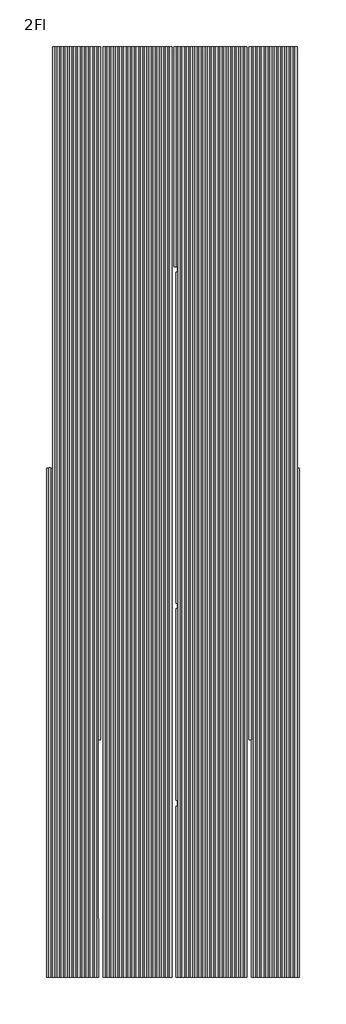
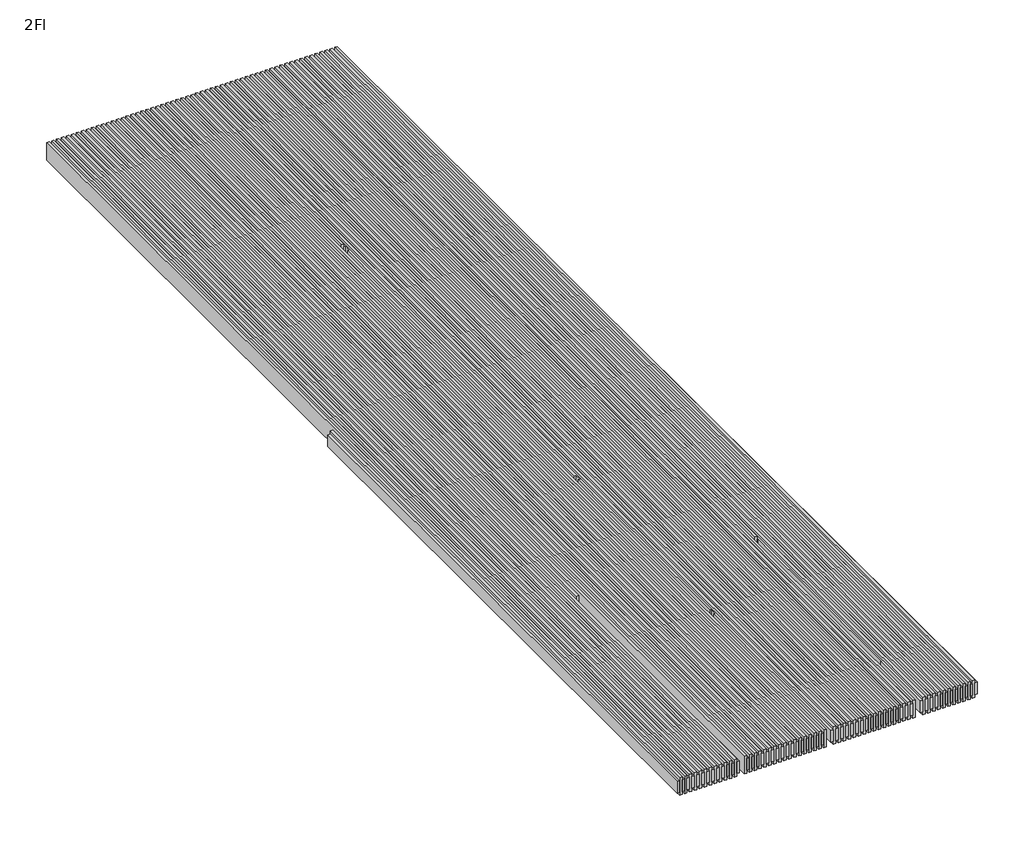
# One storey, incomplete: 60 members, 58 plates.
"""IFC4 building model written with IfcOpenShell, lengths in millimetres."""

from ifc_helpers import new_model, si_unit, origin, place, context, project, spatial, transform, mapped, element, save
from components import louver_20x150_cb5f7806, louver_20x150_8942ec77, louver_20x150_e3eb93e8, louver_20x150_0c83da87, plate_a6df87d5, plate_b335856c, plate_ebc2b1f9, plate_564b02af, plate_63aab1e6, plate_33c2b598

model = new_model("IFC4")

# Units and contexts
model_context = context("Model", 3, world=origin())
ifc_project = project(units=[si_unit("LENGTHUNIT", "METRE", prefix="MILLI")], contexts=[model_context])

# Site, building, storey
site = spatial("IfcSite", under=ifc_project)
building = spatial("IfcBuilding", under=site)
storey = spatial("IfcBuildingStorey", under=building, Name="2Fl", Elevation=5000.0)

# Members
placement = place(None, origin())
louver_20x150_shape = louver_20x150_cb5f7806(model_context)
element("IfcMember", 1, ObjectType="長方形マリオン : louver-20x150", at=placement, inside=storey, context=model_context, shape_type="MappedRepresentation", body=[
    mapped(louver_20x150_shape, transform((14818.0692785, 5350.9421609, 3075.0), x_axis=(1.0, 0.0, 0.0), y_axis=(0.0, 0.0, -1.0), z_axis=(0.0, 1.0, 0.0))),
])
louver_20x150_2_shape = louver_20x150_8942ec77(model_context)
element("IfcMember", 2, ObjectType="長方形マリオン : louver-20x150", at=placement, inside=storey, context=model_context, shape_type="MappedRepresentation", body=[
    mapped(louver_20x150_2_shape, transform((14858.0692785, 9381.1921609, 3075.0), x_axis=(1.0, 0.0, 0.0), y_axis=(0.0, 0.0, -1.0), z_axis=(0.0, 1.0, 0.0))),
])
element("IfcMember", 3, ObjectType="長方形マリオン : louver-20x150", at=placement, inside=storey, context=model_context, shape_type="MappedRepresentation", body=[
    mapped(louver_20x150_2_shape, transform((14898.0692785, 9381.1921609, 3075.0), x_axis=(1.0, 0.0, 0.0), y_axis=(0.0, 0.0, -1.0), z_axis=(0.0, 1.0, 0.0))),
])
element("IfcMember", 4, ObjectType="長方形マリオン : louver-20x150", at=placement, inside=storey, context=model_context, shape_type="MappedRepresentation", body=[
    mapped(louver_20x150_2_shape, transform((14938.0692785, 9381.1921609, 3075.0), x_axis=(1.0, 0.0, 0.0), y_axis=(0.0, 0.0, -1.0), z_axis=(0.0, 1.0, 0.0))),
])
element("IfcMember", 5, ObjectType="長方形マリオン : louver-20x150", at=placement, inside=storey, context=model_context, shape_type="MappedRepresentation", body=[
    mapped(louver_20x150_2_shape, transform((14978.0692785, 9381.1921609, 3075.0), x_axis=(1.0, 0.0, 0.0), y_axis=(0.0, 0.0, -1.0), z_axis=(0.0, 1.0, 0.0))),
])
element("IfcMember", 6, ObjectType="長方形マリオン : louver-20x150", at=placement, inside=storey, context=model_context, shape_type="MappedRepresentation", body=[
    mapped(louver_20x150_2_shape, transform((15018.0692785, 9381.1921609, 3075.0), x_axis=(1.0, 0.0, 0.0), y_axis=(0.0, 0.0, -1.0), z_axis=(0.0, 1.0, 0.0))),
])
element("IfcMember", 7, ObjectType="長方形マリオン : louver-20x150", at=placement, inside=storey, context=model_context, shape_type="MappedRepresentation", body=[
    mapped(louver_20x150_2_shape, transform((15058.0692785, 9381.1921609, 3075.0), x_axis=(1.0, 0.0, 0.0), y_axis=(0.0, 0.0, -1.0), z_axis=(0.0, 1.0, 0.0))),
])
element("IfcMember", 8, ObjectType="長方形マリオン : louver-20x150", at=placement, inside=storey, context=model_context, shape_type="MappedRepresentation", body=[
    mapped(louver_20x150_2_shape, transform((15098.0692785, 9381.1921609, 3075.0), x_axis=(1.0, 0.0, 0.0), y_axis=(0.0, 0.0, -1.0), z_axis=(0.0, 1.0, 0.0))),
])
element("IfcMember", 9, ObjectType="長方形マリオン : louver-20x150", at=placement, inside=storey, context=model_context, shape_type="MappedRepresentation", body=[
    mapped(louver_20x150_2_shape, transform((15138.0692785, 9381.1921609, 3075.0), x_axis=(1.0, 0.0, 0.0), y_axis=(0.0, 0.0, -1.0), z_axis=(0.0, 1.0, 0.0))),
])
element("IfcMember", 10, ObjectType="長方形マリオン : louver-20x150", at=placement, inside=storey, context=model_context, shape_type="MappedRepresentation", body=[
    mapped(louver_20x150_2_shape, transform((15178.0692785, 9381.1921609, 3075.0), x_axis=(1.0, 0.0, 0.0), y_axis=(0.0, 0.0, -1.0), z_axis=(0.0, 1.0, 0.0))),
])
element("IfcMember", 11, ObjectType="長方形マリオン : louver-20x150", at=placement, inside=storey, context=model_context, shape_type="MappedRepresentation", body=[
    mapped(louver_20x150_2_shape, transform((15218.0692785, 9381.1921609, 3075.0), x_axis=(1.0, 0.0, 0.0), y_axis=(0.0, 0.0, -1.0), z_axis=(0.0, 1.0, 0.0))),
])
element("IfcMember", 12, ObjectType="長方形マリオン : louver-20x150", at=placement, inside=storey, context=model_context, shape_type="MappedRepresentation", body=[
    mapped(louver_20x150_2_shape, transform((15258.0692785, 9381.1921609, 3075.0), x_axis=(1.0, 0.0, 0.0), y_axis=(0.0, 0.0, -1.0), z_axis=(0.0, 1.0, 0.0))),
])
element("IfcMember", 13, ObjectType="長方形マリオン : louver-20x150", at=placement, inside=storey, context=model_context, shape_type="MappedRepresentation", body=[
    mapped(louver_20x150_2_shape, transform((15338.0692785, 9381.1921609, 3075.0), x_axis=(1.0, 0.0, 0.0), y_axis=(0.0, 0.0, -1.0), z_axis=(0.0, 1.0, 0.0))),
])
element("IfcMember", 14, ObjectType="長方形マリオン : louver-20x150", at=placement, inside=storey, context=model_context, shape_type="MappedRepresentation", body=[
    mapped(louver_20x150_2_shape, transform((15378.0692785, 9381.1921609, 3075.0), x_axis=(1.0, 0.0, 0.0), y_axis=(0.0, 0.0, -1.0), z_axis=(0.0, 1.0, 0.0))),
])
element("IfcMember", 15, ObjectType="長方形マリオン : louver-20x150", at=placement, inside=storey, context=model_context, shape_type="MappedRepresentation", body=[
    mapped(louver_20x150_2_shape, transform((15418.0692785, 9381.1921609, 3075.0), x_axis=(1.0, 0.0, 0.0), y_axis=(0.0, 0.0, -1.0), z_axis=(0.0, 1.0, 0.0))),
])
element("IfcMember", 16, ObjectType="長方形マリオン : louver-20x150", at=placement, inside=storey, context=model_context, shape_type="MappedRepresentation", body=[
    mapped(louver_20x150_2_shape, transform((15458.0692785, 9381.1921609, 3075.0), x_axis=(1.0, 0.0, 0.0), y_axis=(0.0, 0.0, -1.0), z_axis=(0.0, 1.0, 0.0))),
])
element("IfcMember", 17, ObjectType="長方形マリオン : louver-20x150", at=placement, inside=storey, context=model_context, shape_type="MappedRepresentation", body=[
    mapped(louver_20x150_2_shape, transform((15498.0692785, 9381.1921609, 3075.0), x_axis=(1.0, 0.0, 0.0), y_axis=(0.0, 0.0, -1.0), z_axis=(0.0, 1.0, 0.0))),
])
element("IfcMember", 18, ObjectType="長方形マリオン : louver-20x150", at=placement, inside=storey, context=model_context, shape_type="MappedRepresentation", body=[
    mapped(louver_20x150_2_shape, transform((15538.0692785, 9381.1921609, 3075.0), x_axis=(1.0, 0.0, 0.0), y_axis=(0.0, 0.0, -1.0), z_axis=(0.0, 1.0, 0.0))),
])
element("IfcMember", 19, ObjectType="長方形マリオン : louver-20x150", at=placement, inside=storey, context=model_context, shape_type="MappedRepresentation", body=[
    mapped(louver_20x150_2_shape, transform((15578.0692785, 9381.1921609, 3075.0), x_axis=(1.0, 0.0, 0.0), y_axis=(0.0, 0.0, -1.0), z_axis=(0.0, 1.0, 0.0))),
])
element("IfcMember", 20, ObjectType="長方形マリオン : louver-20x150", at=placement, inside=storey, context=model_context, shape_type="MappedRepresentation", body=[
    mapped(louver_20x150_2_shape, transform((15618.0692785, 9381.1921609, 3075.0), x_axis=(1.0, 0.0, 0.0), y_axis=(0.0, 0.0, -1.0), z_axis=(0.0, 1.0, 0.0))),
])
element("IfcMember", 21, ObjectType="長方形マリオン : louver-20x150", at=placement, inside=storey, context=model_context, shape_type="MappedRepresentation", body=[
    mapped(louver_20x150_2_shape, transform((15658.0692785, 9381.1921609, 3075.0), x_axis=(1.0, 0.0, 0.0), y_axis=(0.0, 0.0, -1.0), z_axis=(0.0, 1.0, 0.0))),
])
element("IfcMember", 22, ObjectType="長方形マリオン : louver-20x150", at=placement, inside=storey, context=model_context, shape_type="MappedRepresentation", body=[
    mapped(louver_20x150_2_shape, transform((15698.0692785, 9381.1921609, 3075.0), x_axis=(1.0, 0.0, 0.0), y_axis=(0.0, 0.0, -1.0), z_axis=(0.0, 1.0, 0.0))),
])
element("IfcMember", 23, ObjectType="長方形マリオン : louver-20x150", at=placement, inside=storey, context=model_context, shape_type="MappedRepresentation", body=[
    mapped(louver_20x150_2_shape, transform((15738.0692785, 9381.1921609, 3075.0), x_axis=(1.0, 0.0, 0.0), y_axis=(0.0, 0.0, -1.0), z_axis=(0.0, 1.0, 0.0))),
])
element("IfcMember", 24, ObjectType="長方形マリオン : louver-20x150", at=placement, inside=storey, context=model_context, shape_type="MappedRepresentation", body=[
    mapped(louver_20x150_2_shape, transform((15778.0692785, 9381.1921609, 3075.0), x_axis=(1.0, 0.0, 0.0), y_axis=(0.0, 0.0, -1.0), z_axis=(0.0, 1.0, 0.0))),
])
element("IfcMember", 25, ObjectType="長方形マリオン : louver-20x150", at=placement, inside=storey, context=model_context, shape_type="MappedRepresentation", body=[
    mapped(louver_20x150_2_shape, transform((15818.0692785, 9381.1921609, 3075.0), x_axis=(1.0, 0.0, 0.0), y_axis=(0.0, 0.0, -1.0), z_axis=(0.0, 1.0, 0.0))),
])
element("IfcMember", 26, ObjectType="長方形マリオン : louver-20x150", at=placement, inside=storey, context=model_context, shape_type="MappedRepresentation", body=[
    mapped(louver_20x150_2_shape, transform((15858.0692785, 9381.1921609, 3075.0), x_axis=(1.0, 0.0, 0.0), y_axis=(0.0, 0.0, -1.0), z_axis=(0.0, 1.0, 0.0))),
])
element("IfcMember", 27, ObjectType="長方形マリオン : louver-20x150", at=placement, inside=storey, context=model_context, shape_type="MappedRepresentation", body=[
    mapped(louver_20x150_2_shape, transform((15898.0692785, 9381.1921609, 3075.0), x_axis=(1.0, 0.0, 0.0), y_axis=(0.0, 0.0, -1.0), z_axis=(0.0, 1.0, 0.0))),
])
element("IfcMember", 28, ObjectType="長方形マリオン : louver-20x150", at=placement, inside=storey, context=model_context, shape_type="MappedRepresentation", body=[
    mapped(louver_20x150_2_shape, transform((15938.0692785, 9381.1921609, 3075.0), x_axis=(1.0, 0.0, 0.0), y_axis=(0.0, 0.0, -1.0), z_axis=(0.0, 1.0, 0.0))),
])
element("IfcMember", 29, ObjectType="長方形マリオン : louver-20x150", at=placement, inside=storey, context=model_context, shape_type="MappedRepresentation", body=[
    mapped(louver_20x150_2_shape, transform((15978.0692785, 9381.1921609, 3075.0), x_axis=(1.0, 0.0, 0.0), y_axis=(0.0, 0.0, -1.0), z_axis=(0.0, 1.0, 0.0))),
])
element("IfcMember", 30, ObjectType="長方形マリオン : louver-20x150", at=placement, inside=storey, context=model_context, shape_type="MappedRepresentation", body=[
    mapped(louver_20x150_2_shape, transform((16058.0692785, 9381.1921609, 3075.0), x_axis=(1.0, 0.0, 0.0), y_axis=(0.0, 0.0, -1.0), z_axis=(0.0, 1.0, 0.0))),
])
element("IfcMember", 31, ObjectType="長方形マリオン : louver-20x150", at=placement, inside=storey, context=model_context, shape_type="MappedRepresentation", body=[
    mapped(louver_20x150_2_shape, transform((16098.0692785, 9381.1921609, 3075.0), x_axis=(1.0, 0.0, 0.0), y_axis=(0.0, 0.0, -1.0), z_axis=(0.0, 1.0, 0.0))),
])
element("IfcMember", 32, ObjectType="長方形マリオン : louver-20x150", at=placement, inside=storey, context=model_context, shape_type="MappedRepresentation", body=[
    mapped(louver_20x150_2_shape, transform((16138.0692785, 9381.1921609, 3075.0), x_axis=(1.0, 0.0, 0.0), y_axis=(0.0, 0.0, -1.0), z_axis=(0.0, 1.0, 0.0))),
])
element("IfcMember", 33, ObjectType="長方形マリオン : louver-20x150", at=placement, inside=storey, context=model_context, shape_type="MappedRepresentation", body=[
    mapped(louver_20x150_2_shape, transform((16178.0692785, 9381.1921609, 3075.0), x_axis=(1.0, 0.0, 0.0), y_axis=(0.0, 0.0, -1.0), z_axis=(0.0, 1.0, 0.0))),
])
element("IfcMember", 34, ObjectType="長方形マリオン : louver-20x150", at=placement, inside=storey, context=model_context, shape_type="MappedRepresentation", body=[
    mapped(louver_20x150_2_shape, transform((16218.0692785, 9381.1921609, 3075.0), x_axis=(1.0, 0.0, 0.0), y_axis=(0.0, 0.0, -1.0), z_axis=(0.0, 1.0, 0.0))),
])
element("IfcMember", 35, ObjectType="長方形マリオン : louver-20x150", at=placement, inside=storey, context=model_context, shape_type="MappedRepresentation", body=[
    mapped(louver_20x150_2_shape, transform((16258.0692785, 9381.1921609, 3075.0), x_axis=(1.0, 0.0, 0.0), y_axis=(0.0, 0.0, -1.0), z_axis=(0.0, 1.0, 0.0))),
])
element("IfcMember", 36, ObjectType="長方形マリオン : louver-20x150", at=placement, inside=storey, context=model_context, shape_type="MappedRepresentation", body=[
    mapped(louver_20x150_2_shape, transform((16298.0692785, 9381.1921609, 3075.0), x_axis=(1.0, 0.0, 0.0), y_axis=(0.0, 0.0, -1.0), z_axis=(0.0, 1.0, 0.0))),
])
element("IfcMember", 37, ObjectType="長方形マリオン : louver-20x150", at=placement, inside=storey, context=model_context, shape_type="MappedRepresentation", body=[
    mapped(louver_20x150_2_shape, transform((16338.0692785, 9381.1921609, 3075.0), x_axis=(1.0, 0.0, 0.0), y_axis=(0.0, 0.0, -1.0), z_axis=(0.0, 1.0, 0.0))),
])
element("IfcMember", 38, ObjectType="長方形マリオン : louver-20x150", at=placement, inside=storey, context=model_context, shape_type="MappedRepresentation", body=[
    mapped(louver_20x150_2_shape, transform((16378.0692785, 9381.1921609, 3075.0), x_axis=(1.0, 0.0, 0.0), y_axis=(0.0, 0.0, -1.0), z_axis=(0.0, 1.0, 0.0))),
])
element("IfcMember", 39, ObjectType="長方形マリオン : louver-20x150", at=placement, inside=storey, context=model_context, shape_type="MappedRepresentation", body=[
    mapped(louver_20x150_2_shape, transform((16418.0692785, 9381.1921609, 3075.0), x_axis=(1.0, 0.0, 0.0), y_axis=(0.0, 0.0, -1.0), z_axis=(0.0, 1.0, 0.0))),
])
element("IfcMember", 40, ObjectType="長方形マリオン : louver-20x150", at=placement, inside=storey, context=model_context, shape_type="MappedRepresentation", body=[
    mapped(louver_20x150_2_shape, transform((16458.0692785, 9381.1921609, 3075.0), x_axis=(1.0, 0.0, 0.0), y_axis=(0.0, 0.0, -1.0), z_axis=(0.0, 1.0, 0.0))),
])
element("IfcMember", 41, ObjectType="長方形マリオン : louver-20x150", at=placement, inside=storey, context=model_context, shape_type="MappedRepresentation", body=[
    mapped(louver_20x150_2_shape, transform((16498.0692785, 9381.1921609, 3075.0), x_axis=(1.0, 0.0, 0.0), y_axis=(0.0, 0.0, -1.0), z_axis=(0.0, 1.0, 0.0))),
])
element("IfcMember", 42, ObjectType="長方形マリオン : louver-20x150", at=placement, inside=storey, context=model_context, shape_type="MappedRepresentation", body=[
    mapped(louver_20x150_2_shape, transform((16538.0692785, 9381.1921609, 3075.0), x_axis=(1.0, 0.0, 0.0), y_axis=(0.0, 0.0, -1.0), z_axis=(0.0, 1.0, 0.0))),
])
element("IfcMember", 43, ObjectType="長方形マリオン : louver-20x150", at=placement, inside=storey, context=model_context, shape_type="MappedRepresentation", body=[
    mapped(louver_20x150_2_shape, transform((16578.0692785, 9381.1921609, 3075.0), x_axis=(1.0, 0.0, 0.0), y_axis=(0.0, 0.0, -1.0), z_axis=(0.0, 1.0, 0.0))),
])
element("IfcMember", 44, ObjectType="長方形マリオン : louver-20x150", at=placement, inside=storey, context=model_context, shape_type="MappedRepresentation", body=[
    mapped(louver_20x150_2_shape, transform((16618.0692785, 9381.1921609, 3075.0), x_axis=(1.0, 0.0, 0.0), y_axis=(0.0, 0.0, -1.0), z_axis=(0.0, 1.0, 0.0))),
])
element("IfcMember", 45, ObjectType="長方形マリオン : louver-20x150", at=placement, inside=storey, context=model_context, shape_type="MappedRepresentation", body=[
    mapped(louver_20x150_2_shape, transform((16658.0692785, 9381.1921609, 3075.0), x_axis=(1.0, 0.0, 0.0), y_axis=(0.0, 0.0, -1.0), z_axis=(0.0, 1.0, 0.0))),
])
element("IfcMember", 46, ObjectType="長方形マリオン : louver-20x150", at=placement, inside=storey, context=model_context, shape_type="MappedRepresentation", body=[
    mapped(louver_20x150_2_shape, transform((16698.0692785, 9381.1921609, 3075.0), x_axis=(1.0, 0.0, 0.0), y_axis=(0.0, 0.0, -1.0), z_axis=(0.0, 1.0, 0.0))),
])
element("IfcMember", 47, ObjectType="長方形マリオン : louver-20x150", at=placement, inside=storey, context=model_context, shape_type="MappedRepresentation", body=[
    mapped(louver_20x150_2_shape, transform((16778.0692785, 9381.1921609, 3075.0), x_axis=(1.0, 0.0, 0.0), y_axis=(0.0, 0.0, -1.0), z_axis=(0.0, 1.0, 0.0))),
])
element("IfcMember", 48, ObjectType="長方形マリオン : louver-20x150", at=placement, inside=storey, context=model_context, shape_type="MappedRepresentation", body=[
    mapped(louver_20x150_2_shape, transform((16818.0692785, 9381.1921609, 3075.0), x_axis=(1.0, 0.0, 0.0), y_axis=(0.0, 0.0, -1.0), z_axis=(0.0, 1.0, 0.0))),
])
element("IfcMember", 49, ObjectType="長方形マリオン : louver-20x150", at=placement, inside=storey, context=model_context, shape_type="MappedRepresentation", body=[
    mapped(louver_20x150_2_shape, transform((16858.0692785, 9381.1921609, 3075.0), x_axis=(1.0, 0.0, 0.0), y_axis=(0.0, 0.0, -1.0), z_axis=(0.0, 1.0, 0.0))),
])
element("IfcMember", 50, ObjectType="長方形マリオン : louver-20x150", at=placement, inside=storey, context=model_context, shape_type="MappedRepresentation", body=[
    mapped(louver_20x150_2_shape, transform((16898.0692785, 9381.1921609, 3075.0), x_axis=(1.0, 0.0, 0.0), y_axis=(0.0, 0.0, -1.0), z_axis=(0.0, 1.0, 0.0))),
])
element("IfcMember", 51, ObjectType="長方形マリオン : louver-20x150", at=placement, inside=storey, context=model_context, shape_type="MappedRepresentation", body=[
    mapped(louver_20x150_2_shape, transform((16938.0692785, 9381.1921609, 3075.0), x_axis=(1.0, 0.0, 0.0), y_axis=(0.0, 0.0, -1.0), z_axis=(0.0, 1.0, 0.0))),
])
element("IfcMember", 52, ObjectType="長方形マリオン : louver-20x150", at=placement, inside=storey, context=model_context, shape_type="MappedRepresentation", body=[
    mapped(louver_20x150_2_shape, transform((16978.0692785, 9381.1921609, 3075.0), x_axis=(1.0, 0.0, 0.0), y_axis=(0.0, 0.0, -1.0), z_axis=(0.0, 1.0, 0.0))),
])
element("IfcMember", 53, ObjectType="長方形マリオン : louver-20x150", at=placement, inside=storey, context=model_context, shape_type="MappedRepresentation", body=[
    mapped(louver_20x150_2_shape, transform((17018.0692785, 9381.1921609, 3075.0), x_axis=(1.0, 0.0, 0.0), y_axis=(0.0, 0.0, -1.0), z_axis=(0.0, 1.0, 0.0))),
])
element("IfcMember", 54, ObjectType="長方形マリオン : louver-20x150", at=placement, inside=storey, context=model_context, shape_type="MappedRepresentation", body=[
    mapped(louver_20x150_2_shape, transform((17058.0692785, 9381.1921609, 3075.0), x_axis=(1.0, 0.0, 0.0), y_axis=(0.0, 0.0, -1.0), z_axis=(0.0, 1.0, 0.0))),
])
element("IfcMember", 55, ObjectType="長方形マリオン : louver-20x150", at=placement, inside=storey, context=model_context, shape_type="MappedRepresentation", body=[
    mapped(louver_20x150_2_shape, transform((17098.0692785, 9381.1921609, 3075.0), x_axis=(1.0, 0.0, 0.0), y_axis=(0.0, 0.0, -1.0), z_axis=(0.0, 1.0, 0.0))),
])
element("IfcMember", 56, ObjectType="長方形マリオン : louver-20x150", at=placement, inside=storey, context=model_context, shape_type="MappedRepresentation", body=[
    mapped(louver_20x150_2_shape, transform((17138.0692785, 9381.1921609, 3075.0), x_axis=(1.0, 0.0, 0.0), y_axis=(0.0, 0.0, -1.0), z_axis=(0.0, 1.0, 0.0))),
])
element("IfcMember", 57, ObjectType="長方形マリオン : louver-20x150", at=placement, inside=storey, context=model_context, shape_type="MappedRepresentation", body=[
    mapped(louver_20x150_2_shape, transform((17178.0692785, 9381.1921609, 3075.0), x_axis=(1.0, 0.0, 0.0), y_axis=(0.0, 0.0, -1.0), z_axis=(0.0, 1.0, 0.0))),
])
louver_20x150_3_shape = louver_20x150_e3eb93e8(model_context)
element("IfcMember", 58, ObjectType="長方形マリオン : louver-20x150", at=placement, inside=storey, context=model_context, shape_type="MappedRepresentation", body=[
    mapped(louver_20x150_3_shape, transform((15298.0692785, 9381.1921609, 3075.0), x_axis=(1.0, 0.0, 0.0), y_axis=(0.0, 0.0, -1.0), z_axis=(0.0, 1.0, 0.0))),
])
element("IfcMember", 59, ObjectType="長方形マリオン : louver-20x150", at=placement, inside=storey, context=model_context, shape_type="MappedRepresentation", body=[
    mapped(louver_20x150_3_shape, transform((16738.0692785, 9381.1921609, 3075.0), x_axis=(1.0, 0.0, 0.0), y_axis=(0.0, 0.0, -1.0), z_axis=(0.0, 1.0, 0.0))),
])
louver_20x150_4_shape = louver_20x150_0c83da87(model_context)
element("IfcMember", 60, ObjectType="長方形マリオン : louver-20x150", at=placement, inside=storey, context=model_context, shape_type="MappedRepresentation", body=[
    mapped(louver_20x150_4_shape, transform((16018.0692785, 9381.1921609, 3075.0), x_axis=(1.0, 0.0, 0.0), y_axis=(0.0, 0.0, -1.0), z_axis=(0.0, 1.0, 0.0))),
])

# Plates
plate_shape = plate_a6df87d5(model_context)
element("IfcPlate", 61, ObjectType="システム パネルなし : なし", at=placement, inside=storey, context=model_context, shape_type="MappedRepresentation", body=[
    mapped(plate_shape, transform((14798.0692784, 479.1921609, 3075.0), x_axis=(1.0, 0.0, 0.0), y_axis=(0.0, 0.0, -1.0), z_axis=(0.0, 1.0, 0.0))),
])
plate_2_shape = plate_b335856c(model_context)
element("IfcPlate", 62, ObjectType="システム パネルなし : なし", at=placement, inside=storey, context=model_context, shape_type="MappedRepresentation", body=[
    mapped(plate_2_shape, transform((14838.0692785, 479.1921609, 3075.0), x_axis=(1.0, 0.0, 0.0), y_axis=(0.0, 0.0, -1.0), z_axis=(0.0, 1.0, 0.0))),
])
element("IfcPlate", 63, ObjectType="システム パネルなし : なし", at=placement, inside=storey, context=model_context, shape_type="MappedRepresentation", body=[
    mapped(plate_2_shape, transform((17198.0692785, 479.1921609, 3075.0), x_axis=(1.0, 0.0, 0.0), y_axis=(0.0, 0.0, -1.0), z_axis=(0.0, 1.0, 0.0))),
])
plate_3_shape = plate_ebc2b1f9(model_context)
element("IfcPlate", 64, ObjectType="システム パネルなし : なし", at=placement, inside=storey, context=model_context, shape_type="MappedRepresentation", body=[
    mapped(plate_3_shape, transform((14878.0692785, 479.1921609, 3075.0), x_axis=(1.0, 0.0, 0.0), y_axis=(0.0, 0.0, -1.0), z_axis=(0.0, 1.0, 0.0))),
])
element("IfcPlate", 65, ObjectType="システム パネルなし : なし", at=placement, inside=storey, context=model_context, shape_type="MappedRepresentation", body=[
    mapped(plate_3_shape, transform((14918.0692785, 479.1921609, 3075.0), x_axis=(1.0, 0.0, 0.0), y_axis=(0.0, 0.0, -1.0), z_axis=(0.0, 1.0, 0.0))),
])
element("IfcPlate", 66, ObjectType="システム パネルなし : なし", at=placement, inside=storey, context=model_context, shape_type="MappedRepresentation", body=[
    mapped(plate_3_shape, transform((14958.0692785, 479.1921609, 3075.0), x_axis=(1.0, 0.0, 0.0), y_axis=(0.0, 0.0, -1.0), z_axis=(0.0, 1.0, 0.0))),
])
element("IfcPlate", 67, ObjectType="システム パネルなし : なし", at=placement, inside=storey, context=model_context, shape_type="MappedRepresentation", body=[
    mapped(plate_3_shape, transform((14998.0692785, 479.1921609, 3075.0), x_axis=(1.0, 0.0, 0.0), y_axis=(0.0, 0.0, -1.0), z_axis=(0.0, 1.0, 0.0))),
])
element("IfcPlate", 68, ObjectType="システム パネルなし : なし", at=placement, inside=storey, context=model_context, shape_type="MappedRepresentation", body=[
    mapped(plate_3_shape, transform((15038.0692785, 479.1921609, 3075.0), x_axis=(1.0, 0.0, 0.0), y_axis=(0.0, 0.0, -1.0), z_axis=(0.0, 1.0, 0.0))),
])
element("IfcPlate", 69, ObjectType="システム パネルなし : なし", at=placement, inside=storey, context=model_context, shape_type="MappedRepresentation", body=[
    mapped(plate_3_shape, transform((15078.0692785, 479.1921609, 3075.0), x_axis=(1.0, 0.0, 0.0), y_axis=(0.0, 0.0, -1.0), z_axis=(0.0, 1.0, 0.0))),
])
element("IfcPlate", 70, ObjectType="システム パネルなし : なし", at=placement, inside=storey, context=model_context, shape_type="MappedRepresentation", body=[
    mapped(plate_3_shape, transform((15118.0692785, 479.1921609, 3075.0), x_axis=(1.0, 0.0, 0.0), y_axis=(0.0, 0.0, -1.0), z_axis=(0.0, 1.0, 0.0))),
])
element("IfcPlate", 71, ObjectType="システム パネルなし : なし", at=placement, inside=storey, context=model_context, shape_type="MappedRepresentation", body=[
    mapped(plate_3_shape, transform((15158.0692785, 479.1921609, 3075.0), x_axis=(1.0, 0.0, 0.0), y_axis=(0.0, 0.0, -1.0), z_axis=(0.0, 1.0, 0.0))),
])
element("IfcPlate", 72, ObjectType="システム パネルなし : なし", at=placement, inside=storey, context=model_context, shape_type="MappedRepresentation", body=[
    mapped(plate_3_shape, transform((15198.0692785, 479.1921609, 3075.0), x_axis=(1.0, 0.0, 0.0), y_axis=(0.0, 0.0, -1.0), z_axis=(0.0, 1.0, 0.0))),
])
element("IfcPlate", 73, ObjectType="システム パネルなし : なし", at=placement, inside=storey, context=model_context, shape_type="MappedRepresentation", body=[
    mapped(plate_3_shape, transform((15238.0692785, 479.1921609, 3075.0), x_axis=(1.0, 0.0, 0.0), y_axis=(0.0, 0.0, -1.0), z_axis=(0.0, 1.0, 0.0))),
])
element("IfcPlate", 74, ObjectType="システム パネルなし : なし", at=placement, inside=storey, context=model_context, shape_type="MappedRepresentation", body=[
    mapped(plate_3_shape, transform((15358.0692785, 479.1921609, 3075.0), x_axis=(1.0, 0.0, 0.0), y_axis=(0.0, 0.0, -1.0), z_axis=(0.0, 1.0, 0.0))),
])
element("IfcPlate", 75, ObjectType="システム パネルなし : なし", at=placement, inside=storey, context=model_context, shape_type="MappedRepresentation", body=[
    mapped(plate_3_shape, transform((15398.0692785, 479.1921609, 3075.0), x_axis=(1.0, 0.0, 0.0), y_axis=(0.0, 0.0, -1.0), z_axis=(0.0, 1.0, 0.0))),
])
element("IfcPlate", 76, ObjectType="システム パネルなし : なし", at=placement, inside=storey, context=model_context, shape_type="MappedRepresentation", body=[
    mapped(plate_3_shape, transform((15438.0692785, 479.1921609, 3075.0), x_axis=(1.0, 0.0, 0.0), y_axis=(0.0, 0.0, -1.0), z_axis=(0.0, 1.0, 0.0))),
])
element("IfcPlate", 77, ObjectType="システム パネルなし : なし", at=placement, inside=storey, context=model_context, shape_type="MappedRepresentation", body=[
    mapped(plate_3_shape, transform((15478.0692785, 479.1921609, 3075.0), x_axis=(1.0, 0.0, 0.0), y_axis=(0.0, 0.0, -1.0), z_axis=(0.0, 1.0, 0.0))),
])
element("IfcPlate", 78, ObjectType="システム パネルなし : なし", at=placement, inside=storey, context=model_context, shape_type="MappedRepresentation", body=[
    mapped(plate_3_shape, transform((15518.0692785, 479.1921609, 3075.0), x_axis=(1.0, 0.0, 0.0), y_axis=(0.0, 0.0, -1.0), z_axis=(0.0, 1.0, 0.0))),
])
element("IfcPlate", 79, ObjectType="システム パネルなし : なし", at=placement, inside=storey, context=model_context, shape_type="MappedRepresentation", body=[
    mapped(plate_3_shape, transform((15558.0692785, 479.1921609, 3075.0), x_axis=(1.0, 0.0, 0.0), y_axis=(0.0, 0.0, -1.0), z_axis=(0.0, 1.0, 0.0))),
])
element("IfcPlate", 80, ObjectType="システム パネルなし : なし", at=placement, inside=storey, context=model_context, shape_type="MappedRepresentation", body=[
    mapped(plate_3_shape, transform((15598.0692785, 479.1921609, 3075.0), x_axis=(1.0, 0.0, 0.0), y_axis=(0.0, 0.0, -1.0), z_axis=(0.0, 1.0, 0.0))),
])
element("IfcPlate", 81, ObjectType="システム パネルなし : なし", at=placement, inside=storey, context=model_context, shape_type="MappedRepresentation", body=[
    mapped(plate_3_shape, transform((15638.0692785, 479.1921609, 3075.0), x_axis=(1.0, 0.0, 0.0), y_axis=(0.0, 0.0, -1.0), z_axis=(0.0, 1.0, 0.0))),
])
element("IfcPlate", 82, ObjectType="システム パネルなし : なし", at=placement, inside=storey, context=model_context, shape_type="MappedRepresentation", body=[
    mapped(plate_3_shape, transform((15678.0692785, 479.1921609, 3075.0), x_axis=(1.0, 0.0, 0.0), y_axis=(0.0, 0.0, -1.0), z_axis=(0.0, 1.0, 0.0))),
])
element("IfcPlate", 83, ObjectType="システム パネルなし : なし", at=placement, inside=storey, context=model_context, shape_type="MappedRepresentation", body=[
    mapped(plate_3_shape, transform((15718.0692785, 479.1921609, 3075.0), x_axis=(1.0, 0.0, 0.0), y_axis=(0.0, 0.0, -1.0), z_axis=(0.0, 1.0, 0.0))),
])
element("IfcPlate", 84, ObjectType="システム パネルなし : なし", at=placement, inside=storey, context=model_context, shape_type="MappedRepresentation", body=[
    mapped(plate_3_shape, transform((15758.0692785, 479.1921609, 3075.0), x_axis=(1.0, 0.0, 0.0), y_axis=(0.0, 0.0, -1.0), z_axis=(0.0, 1.0, 0.0))),
])
element("IfcPlate", 85, ObjectType="システム パネルなし : なし", at=placement, inside=storey, context=model_context, shape_type="MappedRepresentation", body=[
    mapped(plate_3_shape, transform((15798.0692785, 479.1921609, 3075.0), x_axis=(1.0, 0.0, 0.0), y_axis=(0.0, 0.0, -1.0), z_axis=(0.0, 1.0, 0.0))),
])
element("IfcPlate", 86, ObjectType="システム パネルなし : なし", at=placement, inside=storey, context=model_context, shape_type="MappedRepresentation", body=[
    mapped(plate_3_shape, transform((15838.0692785, 479.1921609, 3075.0), x_axis=(1.0, 0.0, 0.0), y_axis=(0.0, 0.0, -1.0), z_axis=(0.0, 1.0, 0.0))),
])
element("IfcPlate", 87, ObjectType="システム パネルなし : なし", at=placement, inside=storey, context=model_context, shape_type="MappedRepresentation", body=[
    mapped(plate_3_shape, transform((15878.0692785, 479.1921609, 3075.0), x_axis=(1.0, 0.0, 0.0), y_axis=(0.0, 0.0, -1.0), z_axis=(0.0, 1.0, 0.0))),
])
element("IfcPlate", 88, ObjectType="システム パネルなし : なし", at=placement, inside=storey, context=model_context, shape_type="MappedRepresentation", body=[
    mapped(plate_3_shape, transform((15918.0692785, 479.1921609, 3075.0), x_axis=(1.0, 0.0, 0.0), y_axis=(0.0, 0.0, -1.0), z_axis=(0.0, 1.0, 0.0))),
])
element("IfcPlate", 89, ObjectType="システム パネルなし : なし", at=placement, inside=storey, context=model_context, shape_type="MappedRepresentation", body=[
    mapped(plate_3_shape, transform((15958.0692785, 479.1921609, 3075.0), x_axis=(1.0, 0.0, 0.0), y_axis=(0.0, 0.0, -1.0), z_axis=(0.0, 1.0, 0.0))),
])
element("IfcPlate", 90, ObjectType="システム パネルなし : なし", at=placement, inside=storey, context=model_context, shape_type="MappedRepresentation", body=[
    mapped(plate_3_shape, transform((16078.0692785, 479.1921609, 3075.0), x_axis=(1.0, 0.0, 0.0), y_axis=(0.0, 0.0, -1.0), z_axis=(0.0, 1.0, 0.0))),
])
element("IfcPlate", 91, ObjectType="システム パネルなし : なし", at=placement, inside=storey, context=model_context, shape_type="MappedRepresentation", body=[
    mapped(plate_3_shape, transform((16118.0692785, 479.1921609, 3075.0), x_axis=(1.0, 0.0, 0.0), y_axis=(0.0, 0.0, -1.0), z_axis=(0.0, 1.0, 0.0))),
])
element("IfcPlate", 92, ObjectType="システム パネルなし : なし", at=placement, inside=storey, context=model_context, shape_type="MappedRepresentation", body=[
    mapped(plate_3_shape, transform((16158.0692785, 479.1921609, 3075.0), x_axis=(1.0, 0.0, 0.0), y_axis=(0.0, 0.0, -1.0), z_axis=(0.0, 1.0, 0.0))),
])
element("IfcPlate", 93, ObjectType="システム パネルなし : なし", at=placement, inside=storey, context=model_context, shape_type="MappedRepresentation", body=[
    mapped(plate_3_shape, transform((16198.0692785, 479.1921609, 3075.0), x_axis=(1.0, 0.0, 0.0), y_axis=(0.0, 0.0, -1.0), z_axis=(0.0, 1.0, 0.0))),
])
element("IfcPlate", 94, ObjectType="システム パネルなし : なし", at=placement, inside=storey, context=model_context, shape_type="MappedRepresentation", body=[
    mapped(plate_3_shape, transform((16238.0692785, 479.1921609, 3075.0), x_axis=(1.0, 0.0, 0.0), y_axis=(0.0, 0.0, -1.0), z_axis=(0.0, 1.0, 0.0))),
])
element("IfcPlate", 95, ObjectType="システム パネルなし : なし", at=placement, inside=storey, context=model_context, shape_type="MappedRepresentation", body=[
    mapped(plate_3_shape, transform((16278.0692785, 479.1921609, 3075.0), x_axis=(1.0, 0.0, 0.0), y_axis=(0.0, 0.0, -1.0), z_axis=(0.0, 1.0, 0.0))),
])
element("IfcPlate", 96, ObjectType="システム パネルなし : なし", at=placement, inside=storey, context=model_context, shape_type="MappedRepresentation", body=[
    mapped(plate_3_shape, transform((16318.0692785, 479.1921609, 3075.0), x_axis=(1.0, 0.0, 0.0), y_axis=(0.0, 0.0, -1.0), z_axis=(0.0, 1.0, 0.0))),
])
element("IfcPlate", 97, ObjectType="システム パネルなし : なし", at=placement, inside=storey, context=model_context, shape_type="MappedRepresentation", body=[
    mapped(plate_3_shape, transform((16358.0692785, 479.1921609, 3075.0), x_axis=(1.0, 0.0, 0.0), y_axis=(0.0, 0.0, -1.0), z_axis=(0.0, 1.0, 0.0))),
])
element("IfcPlate", 98, ObjectType="システム パネルなし : なし", at=placement, inside=storey, context=model_context, shape_type="MappedRepresentation", body=[
    mapped(plate_3_shape, transform((16398.0692785, 479.1921609, 3075.0), x_axis=(1.0, 0.0, 0.0), y_axis=(0.0, 0.0, -1.0), z_axis=(0.0, 1.0, 0.0))),
])
element("IfcPlate", 99, ObjectType="システム パネルなし : なし", at=placement, inside=storey, context=model_context, shape_type="MappedRepresentation", body=[
    mapped(plate_3_shape, transform((16438.0692785, 479.1921609, 3075.0), x_axis=(1.0, 0.0, 0.0), y_axis=(0.0, 0.0, -1.0), z_axis=(0.0, 1.0, 0.0))),
])
element("IfcPlate", 100, ObjectType="システム パネルなし : なし", at=placement, inside=storey, context=model_context, shape_type="MappedRepresentation", body=[
    mapped(plate_3_shape, transform((16478.0692785, 479.1921609, 3075.0), x_axis=(1.0, 0.0, 0.0), y_axis=(0.0, 0.0, -1.0), z_axis=(0.0, 1.0, 0.0))),
])
element("IfcPlate", 101, ObjectType="システム パネルなし : なし", at=placement, inside=storey, context=model_context, shape_type="MappedRepresentation", body=[
    mapped(plate_3_shape, transform((16518.0692785, 479.1921609, 3075.0), x_axis=(1.0, 0.0, 0.0), y_axis=(0.0, 0.0, -1.0), z_axis=(0.0, 1.0, 0.0))),
])
element("IfcPlate", 102, ObjectType="システム パネルなし : なし", at=placement, inside=storey, context=model_context, shape_type="MappedRepresentation", body=[
    mapped(plate_3_shape, transform((16558.0692785, 479.1921609, 3075.0), x_axis=(1.0, 0.0, 0.0), y_axis=(0.0, 0.0, -1.0), z_axis=(0.0, 1.0, 0.0))),
])
element("IfcPlate", 103, ObjectType="システム パネルなし : なし", at=placement, inside=storey, context=model_context, shape_type="MappedRepresentation", body=[
    mapped(plate_3_shape, transform((16598.0692785, 479.1921609, 3075.0), x_axis=(1.0, 0.0, 0.0), y_axis=(0.0, 0.0, -1.0), z_axis=(0.0, 1.0, 0.0))),
])
element("IfcPlate", 104, ObjectType="システム パネルなし : なし", at=placement, inside=storey, context=model_context, shape_type="MappedRepresentation", body=[
    mapped(plate_3_shape, transform((16638.0692785, 479.1921609, 3075.0), x_axis=(1.0, 0.0, 0.0), y_axis=(0.0, 0.0, -1.0), z_axis=(0.0, 1.0, 0.0))),
])
element("IfcPlate", 105, ObjectType="システム パネルなし : なし", at=placement, inside=storey, context=model_context, shape_type="MappedRepresentation", body=[
    mapped(plate_3_shape, transform((16678.0692785, 479.1921609, 3075.0), x_axis=(1.0, 0.0, 0.0), y_axis=(0.0, 0.0, -1.0), z_axis=(0.0, 1.0, 0.0))),
])
element("IfcPlate", 106, ObjectType="システム パネルなし : なし", at=placement, inside=storey, context=model_context, shape_type="MappedRepresentation", body=[
    mapped(plate_3_shape, transform((16798.0692785, 479.1921609, 3075.0), x_axis=(1.0, 0.0, 0.0), y_axis=(0.0, 0.0, -1.0), z_axis=(0.0, 1.0, 0.0))),
])
element("IfcPlate", 107, ObjectType="システム パネルなし : なし", at=placement, inside=storey, context=model_context, shape_type="MappedRepresentation", body=[
    mapped(plate_3_shape, transform((16838.0692785, 479.1921609, 3075.0), x_axis=(1.0, 0.0, 0.0), y_axis=(0.0, 0.0, -1.0), z_axis=(0.0, 1.0, 0.0))),
])
element("IfcPlate", 108, ObjectType="システム パネルなし : なし", at=placement, inside=storey, context=model_context, shape_type="MappedRepresentation", body=[
    mapped(plate_3_shape, transform((16878.0692785, 479.1921609, 3075.0), x_axis=(1.0, 0.0, 0.0), y_axis=(0.0, 0.0, -1.0), z_axis=(0.0, 1.0, 0.0))),
])
element("IfcPlate", 109, ObjectType="システム パネルなし : なし", at=placement, inside=storey, context=model_context, shape_type="MappedRepresentation", body=[
    mapped(plate_3_shape, transform((16918.0692785, 479.1921609, 3075.0), x_axis=(1.0, 0.0, 0.0), y_axis=(0.0, 0.0, -1.0), z_axis=(0.0, 1.0, 0.0))),
])
element("IfcPlate", 110, ObjectType="システム パネルなし : なし", at=placement, inside=storey, context=model_context, shape_type="MappedRepresentation", body=[
    mapped(plate_3_shape, transform((16958.0692785, 479.1921609, 3075.0), x_axis=(1.0, 0.0, 0.0), y_axis=(0.0, 0.0, -1.0), z_axis=(0.0, 1.0, 0.0))),
])
element("IfcPlate", 111, ObjectType="システム パネルなし : なし", at=placement, inside=storey, context=model_context, shape_type="MappedRepresentation", body=[
    mapped(plate_3_shape, transform((16998.0692785, 479.1921609, 3075.0), x_axis=(1.0, 0.0, 0.0), y_axis=(0.0, 0.0, -1.0), z_axis=(0.0, 1.0, 0.0))),
])
element("IfcPlate", 112, ObjectType="システム パネルなし : なし", at=placement, inside=storey, context=model_context, shape_type="MappedRepresentation", body=[
    mapped(plate_3_shape, transform((17038.0692785, 479.1921609, 3075.0), x_axis=(1.0, 0.0, 0.0), y_axis=(0.0, 0.0, -1.0), z_axis=(0.0, 1.0, 0.0))),
])
element("IfcPlate", 113, ObjectType="システム パネルなし : なし", at=placement, inside=storey, context=model_context, shape_type="MappedRepresentation", body=[
    mapped(plate_3_shape, transform((17078.0692785, 479.1921609, 3075.0), x_axis=(1.0, 0.0, 0.0), y_axis=(0.0, 0.0, -1.0), z_axis=(0.0, 1.0, 0.0))),
])
element("IfcPlate", 114, ObjectType="システム パネルなし : なし", at=placement, inside=storey, context=model_context, shape_type="MappedRepresentation", body=[
    mapped(plate_3_shape, transform((17118.0692785, 479.1921609, 3075.0), x_axis=(1.0, 0.0, 0.0), y_axis=(0.0, 0.0, -1.0), z_axis=(0.0, 1.0, 0.0))),
])
element("IfcPlate", 115, ObjectType="システム パネルなし : なし", at=placement, inside=storey, context=model_context, shape_type="MappedRepresentation", body=[
    mapped(plate_3_shape, transform((17158.0692785, 479.1921609, 3075.0), x_axis=(1.0, 0.0, 0.0), y_axis=(0.0, 0.0, -1.0), z_axis=(0.0, 1.0, 0.0))),
])
plate_4_shape = plate_564b02af(model_context)
element("IfcPlate", 116, ObjectType="システム パネルなし : なし", at=placement, inside=storey, context=model_context, shape_type="MappedRepresentation", body=[
    mapped(plate_4_shape, transform((15278.0692785, 479.1921609, 3075.0), x_axis=(1.0, 0.0, 0.0), y_axis=(0.0, 0.0, -1.0), z_axis=(0.0, 1.0, 0.0))),
])
plate_5_shape = plate_63aab1e6(model_context)
element("IfcPlate", 117, ObjectType="システム パネルなし : なし", at=placement, inside=storey, context=model_context, shape_type="MappedRepresentation", body=[
    mapped(plate_5_shape, transform((16038.0692785, 479.1921609, 3075.0), x_axis=(1.0, 0.0, 0.0), y_axis=(0.0, 0.0, -1.0), z_axis=(0.0, 1.0, 0.0))),
])
plate_6_shape = plate_33c2b598(model_context)
element("IfcPlate", 118, ObjectType="システム パネルなし : なし", at=placement, inside=storey, context=model_context, shape_type="MappedRepresentation", body=[
    mapped(plate_6_shape, transform((16758.0692785, 479.1921609, 3075.0), x_axis=(1.0, 0.0, 0.0), y_axis=(0.0, 0.0, -1.0), z_axis=(0.0, 1.0, 0.0))),
])

save(model, "model.ifc")
